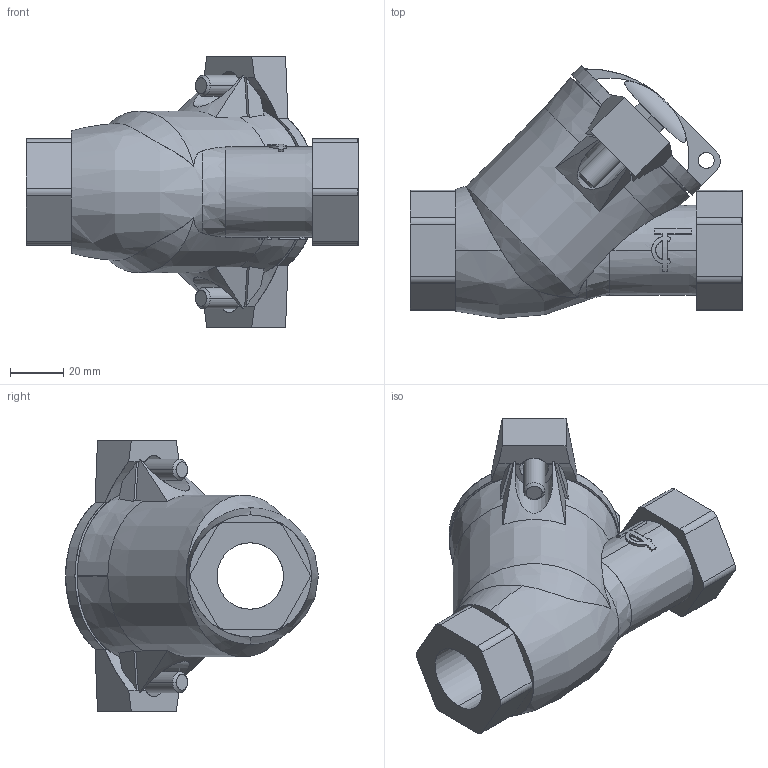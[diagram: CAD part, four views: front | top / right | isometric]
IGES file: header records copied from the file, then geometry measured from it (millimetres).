
Start section: SolidWorks IGES file using analytic representation for surfaces
Global section: file name: D:\part\3D Projects\CBL X141\DN 25\DN 25.IGS; native system: SolidWorks 2009; preprocessor: SolidWorks 2009; author: zhixin.zheng; date: 100512.170738; units: millimetre
Bounding box: 125 x 95.21 x 102 mm (x, y, z)
Surface area: 47468.8 mm2 (no closed solid volume)
Topology: 0 solids, 0 shells, 213 faces, 2174 edges, 2174 vertices
Faces by surface type: bspline 147, revolution 66
